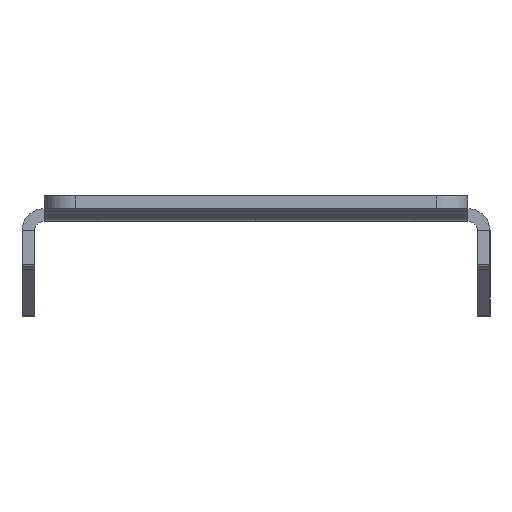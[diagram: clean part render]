
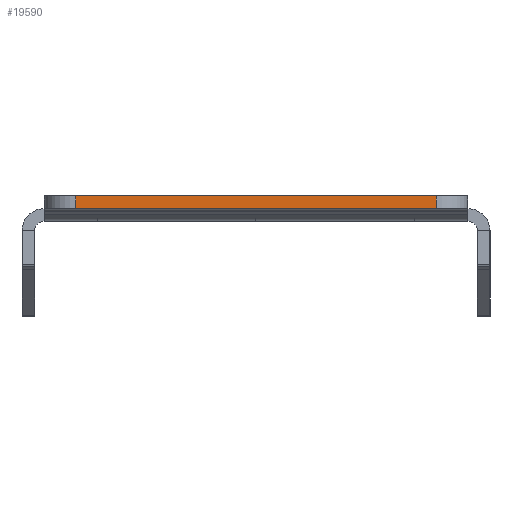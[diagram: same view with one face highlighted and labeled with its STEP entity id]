
A CAD part, left-side view. The second image highlights one B-rep face of the part: STEP entity #19590.
In plain terms, the highlighted planar face has unit normal (-1, 0, 0).
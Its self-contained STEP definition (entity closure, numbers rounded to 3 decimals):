
#2533 = ORIENTED_EDGE ( 'NONE', *, *, #4310, .T. ) ;
#3643 = DIRECTION ( 'NONE',  ( 0., 1., 0. ) ) ;
#4310 = EDGE_CURVE ( 'NONE', #55838, #28557, #33516, .T. ) ;
#4904 = ORIENTED_EDGE ( 'NONE', *, *, #14805, .T. ) ;
#8948 = CARTESIAN_POINT ( 'NONE',  ( -526.002, 33.5, 9.531 ) ) ;
#9832 = CARTESIAN_POINT ( 'NONE',  ( -526.002, 28.5, 7.531 ) ) ;
#10347 = DIRECTION ( 'NONE',  ( 0., 0., 1. ) ) ;
#14133 = CARTESIAN_POINT ( 'NONE',  ( -526.002, 28.5, 9.531 ) ) ;
#14300 = VERTEX_POINT ( 'NONE', #9832 ) ;
#14805 = EDGE_CURVE ( 'NONE', #38772, #55838, #21327, .T. ) ;
#16894 = DIRECTION ( 'NONE',  ( 0., 0., -1. ) ) ;
#19590 = ADVANCED_FACE ( 'NONE', ( #40586 ), #24659, .T. ) ;
#21327 = LINE ( 'NONE', #57201, #56353 ) ;
#22208 = LINE ( 'NONE', #33172, #62859 ) ;
#24126 = CARTESIAN_POINT ( 'NONE',  ( -526.002, -28.5, 7.531 ) ) ;
#24659 = PLANE ( 'NONE',  #63810 ) ;
#28179 = DIRECTION ( 'NONE',  ( 0., 0., 1. ) ) ;
#28557 = VERTEX_POINT ( 'NONE', #14133 ) ;
#28854 = LINE ( 'NONE', #64721, #39401 ) ;
#29171 = EDGE_CURVE ( 'NONE', #28557, #14300, #22208, .T. ) ;
#30091 = EDGE_LOOP ( 'NONE', ( #45214, #4904, #2533, #62924 ) ) ;
#32098 = CARTESIAN_POINT ( 'NONE',  ( -526.002, -28.5, 9.531 ) ) ;
#33172 = CARTESIAN_POINT ( 'NONE',  ( -526.002, 28.5, 9.531 ) ) ;
#33516 = LINE ( 'NONE', #8948, #35014 ) ;
#35014 = VECTOR ( 'NONE', #3643, 1000. ) ;
#35598 = CARTESIAN_POINT ( 'NONE',  ( -526.002, 33.5, 9.531 ) ) ;
#38772 = VERTEX_POINT ( 'NONE', #24126 ) ;
#39401 = VECTOR ( 'NONE', #44470, 1000. ) ;
#40586 = FACE_OUTER_BOUND ( 'NONE', #30091, .T. ) ;
#44470 = DIRECTION ( 'NONE',  ( 0., 1., 0. ) ) ;
#45214 = ORIENTED_EDGE ( 'NONE', *, *, #51276, .F. ) ;
#51276 = EDGE_CURVE ( 'NONE', #38772, #14300, #28854, .T. ) ;
#55838 = VERTEX_POINT ( 'NONE', #32098 ) ;
#55853 = DIRECTION ( 'NONE',  ( -1., 0., 0. ) ) ;
#56353 = VECTOR ( 'NONE', #28179, 1000. ) ;
#57201 = CARTESIAN_POINT ( 'NONE',  ( -526.002, -28.5, 9.531 ) ) ;
#62859 = VECTOR ( 'NONE', #16894, 1000. ) ;
#62924 = ORIENTED_EDGE ( 'NONE', *, *, #29171, .T. ) ;
#63810 = AXIS2_PLACEMENT_3D ( 'NONE', #35598, #55853, #10347 ) ;
#64721 = CARTESIAN_POINT ( 'NONE',  ( -526.002, 0., 7.531 ) ) ;
